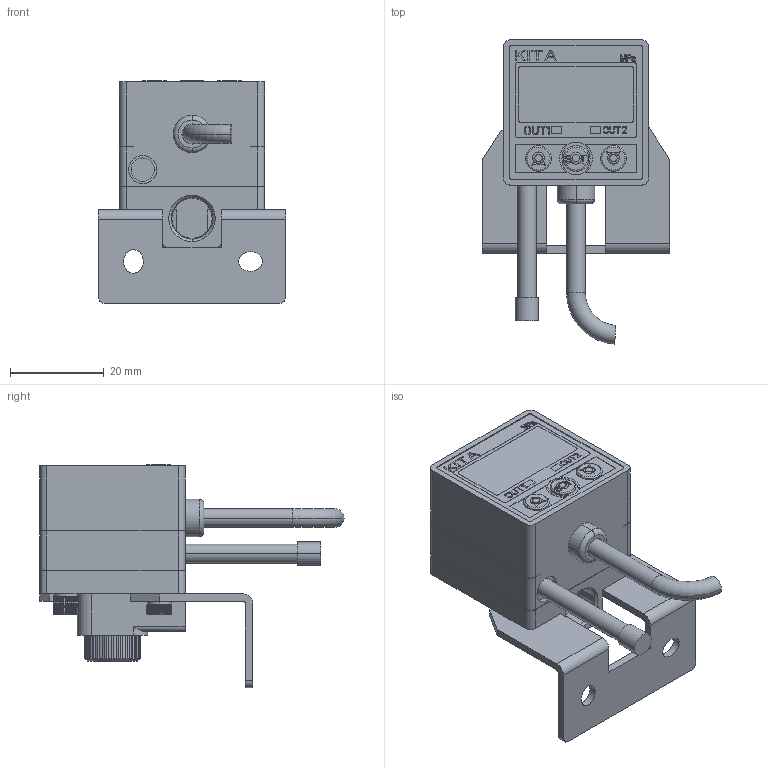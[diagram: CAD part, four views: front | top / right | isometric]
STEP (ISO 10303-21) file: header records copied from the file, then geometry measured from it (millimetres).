
FILE_DESCRIPTION((''),'2;1');
FILE_NAME('KP25_BT-2','2019-07-04T',('Stark'),(''),'CREO PARAMETRIC BY PTC INC, 2014500','CREO PARAMETRIC BY PTC INC, 2014500','');
FILE_SCHEMA(('CONFIG_CONTROL_DESIGN'));
Products named in the file (1): KP25_BT-2
Bounding box: 40 x 64.96 x 47.65 mm (x, y, z)
Volume: 31885.3 mm3; surface area: 10793.5 mm2
Topology: 2 solids, 5 shells, 1629 faces, 4301 edges, 2736 vertices
Faces by surface type: plane 894, cylinder 353, bspline 200, cone 158, torus 18, extrusion 6
Entity records: 66606 total; most frequent: CARTESIAN_POINT 28476, ORIENTED_EDGE 8598, DIRECTION 6927, EDGE_CURVE 4299, VERTEX_POINT 2736, VECTOR 2379, LINE 2373, AXIS2_PLACEMENT_3D 2274
